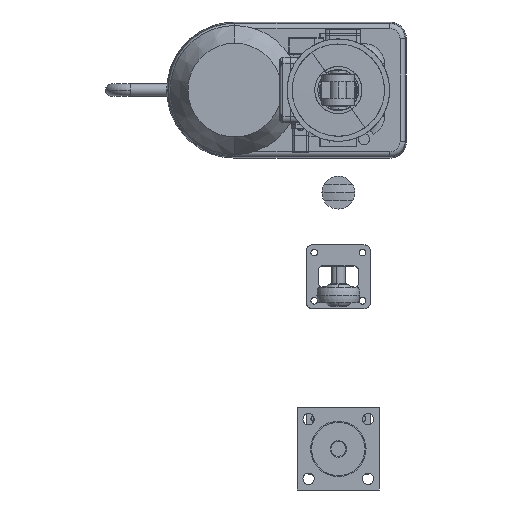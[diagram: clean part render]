
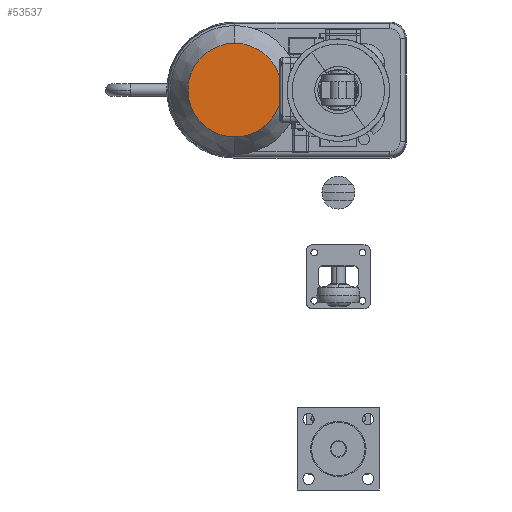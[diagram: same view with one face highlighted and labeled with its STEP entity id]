
A CAD part, left-side view. The second image highlights one B-rep face of the part: STEP entity #53537.
In plain terms, the highlighted planar face has unit normal (-1, 0, 0) as drawn and (0, 0, -1) by its records, which use the part's own axes.
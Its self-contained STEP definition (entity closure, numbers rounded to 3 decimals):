
#1647 = CARTESIAN_POINT ( 'NONE',  ( -16.958, 112.38, -262.569 ) ) ;
#1650 = PLANE ( 'NONE',  #6370 ) ;
#1653 = DIRECTION ( 'NONE',  ( 0., 0., 1. ) ) ;
#1654 = DIRECTION ( 'NONE',  ( 1., 0., 0. ) ) ;
#3238 = FACE_OUTER_BOUND ( 'NONE', #43158, .T. ) ;
#6370 = AXIS2_PLACEMENT_3D ( 'NONE', #1647, #1653, #1654 ) ;
#10492 = VERTEX_POINT ( 'NONE', #42942 ) ;
#10495 = VERTEX_POINT ( 'NONE', #42947 ) ;
#14937 = CIRCLE ( 'NONE', #47592, 45.679 ) ;
#14968 = CIRCLE ( 'NONE', #47577, 45.679 ) ;
#34908 = EDGE_CURVE ( 'NONE', #10492, #10495, #14937, .T. ) ;
#34929 = EDGE_CURVE ( 'NONE', #10495, #10492, #14968, .T. ) ;
#38097 = CARTESIAN_POINT ( 'NONE',  ( -16.958, 66.701, -262.569 ) ) ;
#38100 = DIRECTION ( 'NONE',  ( 0., 0., 1. ) ) ;
#38101 = DIRECTION ( 'NONE',  ( 1., 0., 0. ) ) ;
#38293 = CARTESIAN_POINT ( 'NONE',  ( -16.958, 66.701, -262.569 ) ) ;
#38295 = DIRECTION ( 'NONE',  ( 0., 0., 1. ) ) ;
#38296 = DIRECTION ( 'NONE',  ( 1., 0., 0. ) ) ;
#39161 = ORIENTED_EDGE ( 'NONE', *, *, #34929, .F. ) ;
#39167 = ORIENTED_EDGE ( 'NONE', *, *, #34908, .F. ) ;
#42942 = CARTESIAN_POINT ( 'NONE',  ( 28.722, 66.701, -262.569 ) ) ;
#42947 = CARTESIAN_POINT ( 'NONE',  ( -62.637, 66.701, -262.569 ) ) ;
#43158 = EDGE_LOOP ( 'NONE', ( #39167, #39161 ) ) ;
#47577 = AXIS2_PLACEMENT_3D ( 'NONE', #38293, #38295, #38296 ) ;
#47592 = AXIS2_PLACEMENT_3D ( 'NONE', #38097, #38100, #38101 ) ;
#53537 = ADVANCED_FACE ( 'NONE', ( #3238 ), #1650, .F. ) ;
